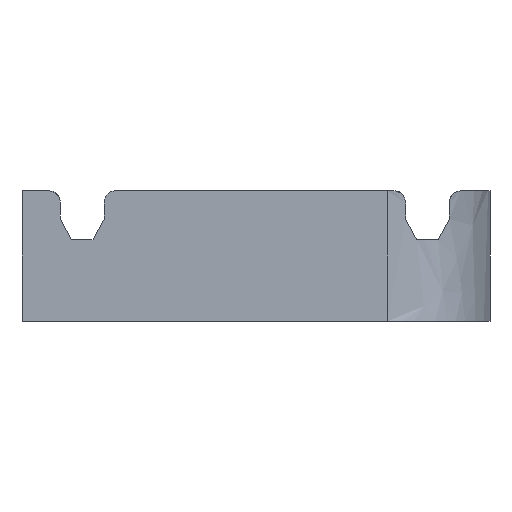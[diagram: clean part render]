
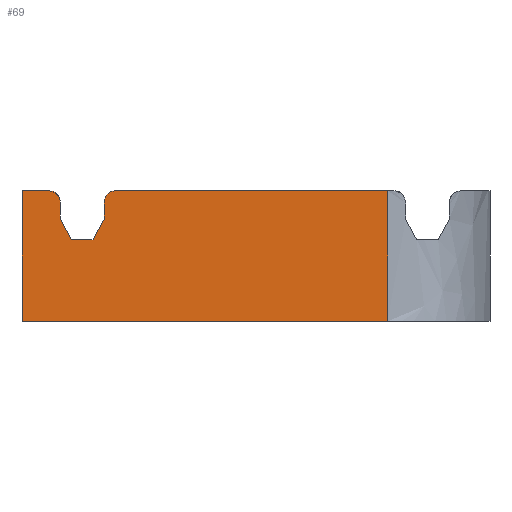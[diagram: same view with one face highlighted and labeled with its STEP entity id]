
A CAD part, front view. The second image highlights one B-rep face of the part: STEP entity #69.
In plain terms, the highlighted planar face has unit normal (0, -1, 0).
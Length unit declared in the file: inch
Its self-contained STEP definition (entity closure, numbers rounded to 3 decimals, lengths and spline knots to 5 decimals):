
#69=ADVANCED_FACE('',(#163),#164,.F.);
#163=FACE_OUTER_BOUND('',#302,.T.);
#164=PLANE('',#303);
#302=EDGE_LOOP('',(#670,#671,#672,#673,#674,#675,#676,#677,#678,#679,#680,#681));
#303=AXIS2_PLACEMENT_3D('',#682,#683,#684);
#670=ORIENTED_EDGE('',*,*,#966,.F.);
#671=ORIENTED_EDGE('',*,*,#967,.F.);
#672=ORIENTED_EDGE('',*,*,#958,.F.);
#673=ORIENTED_EDGE('',*,*,#968,.F.);
#674=ORIENTED_EDGE('',*,*,#969,.F.);
#675=ORIENTED_EDGE('',*,*,#953,.F.);
#676=ORIENTED_EDGE('',*,*,#970,.F.);
#677=ORIENTED_EDGE('',*,*,#971,.F.);
#678=ORIENTED_EDGE('',*,*,#972,.F.);
#679=ORIENTED_EDGE('',*,*,#973,.F.);
#680=ORIENTED_EDGE('',*,*,#974,.F.);
#681=ORIENTED_EDGE('',*,*,#975,.F.);
#682=CARTESIAN_POINT('',(0.67143,0.,-0.18376));
#683=DIRECTION('',(-0.0,1.0,0.0));
#684=DIRECTION('',(1.0,0.0,0.0));
#953=EDGE_CURVE('',#1093,#1095,#1096,.T.);
#958=EDGE_CURVE('',#1102,#1104,#1105,.T.);
#966=EDGE_CURVE('',#1117,#1118,#1119,.T.);
#967=EDGE_CURVE('',#1104,#1117,#1120,.T.);
#968=EDGE_CURVE('',#1121,#1102,#1122,.T.);
#969=EDGE_CURVE('',#1095,#1121,#1123,.T.);
#970=EDGE_CURVE('',#1124,#1093,#1125,.T.);
#971=EDGE_CURVE('',#1126,#1124,#1127,.T.);
#972=EDGE_CURVE('',#1128,#1126,#1129,.T.);
#973=EDGE_CURVE('',#1130,#1128,#1131,.T.);
#974=EDGE_CURVE('',#1132,#1130,#1133,.T.);
#975=EDGE_CURVE('',#1118,#1132,#1134,.T.);
#1093=VERTEX_POINT('',#1315);
#1095=VERTEX_POINT('',#1318);
#1096=LINE('',#1319,#1320);
#1102=VERTEX_POINT('',#1338);
#1104=VERTEX_POINT('',#1341);
#1105=B_SPLINE_CURVE_WITH_KNOTS('',3,(#1342,#1343,#1344,#1345),.UNSPECIFIED.,.F.,.F.,(4,4),(0.0,1.0),.UNSPECIFIED.);
#1117=VERTEX_POINT('',#1376);
#1118=VERTEX_POINT('',#1377);
#1119=LINE('',#1378,#1379);
#1120=LINE('',#1380,#1381);
#1121=VERTEX_POINT('',#1382);
#1122=LINE('',#1383,#1384);
#1123=LINE('',#1385,#1386);
#1124=VERTEX_POINT('',#1387);
#1125=LINE('',#1388,#1389);
#1126=VERTEX_POINT('',#1390);
#1127=LINE('',#1391,#1392);
#1128=VERTEX_POINT('',#1393);
#1129=B_SPLINE_CURVE_WITH_KNOTS('',3,(#1394,#1395,#1396,#1397),.UNSPECIFIED.,.F.,.F.,(4,4),(0.0,1.0),.UNSPECIFIED.);
#1130=VERTEX_POINT('',#1398);
#1131=LINE('',#1399,#1400);
#1132=VERTEX_POINT('',#1401);
#1133=LINE('',#1402,#1403);
#1134=LINE('',#1404,#1405);
#1315=CARTESIAN_POINT('',(0.14178,0.,-0.14101));
#1318=CARTESIAN_POINT('',(0.20384,0.,-0.14101));
#1319=CARTESIAN_POINT('',(0.14178,0.,-0.14101));
#1320=VECTOR('',#1771,1.0);
#1338=CARTESIAN_POINT('',(0.23553,0.,-0.03944));
#1341=CARTESIAN_POINT('',(0.27408,0.,0.0));
#1342=CARTESIAN_POINT('',(0.23553,0.,-0.03944));
#1343=CARTESIAN_POINT('',(0.23553,0.,-0.02395));
#1344=CARTESIAN_POINT('',(0.24251,0.,0.0));
#1345=CARTESIAN_POINT('',(0.27408,0.,0.0));
#1376=CARTESIAN_POINT('',(1.04932,0.,0.0));
#1377=CARTESIAN_POINT('',(1.04932,0.,-0.37522));
#1378=CARTESIAN_POINT('',(1.04932,0.,0.13931));
#1379=VECTOR('',#1777,1.0);
#1380=CARTESIAN_POINT('',(0.27408,0.,0.0));
#1381=VECTOR('',#1778,1.0);
#1382=CARTESIAN_POINT('',(0.23553,0.,-0.08198));
#1383=CARTESIAN_POINT('',(0.23553,0.,-0.08198));
#1384=VECTOR('',#1779,1.0);
#1385=CARTESIAN_POINT('',(0.20384,0.,-0.14101));
#1386=VECTOR('',#1780,1.0);
#1387=CARTESIAN_POINT('',(0.11053,0.,-0.08198));
#1388=CARTESIAN_POINT('',(0.11053,0.,-0.08198));
#1389=VECTOR('',#1781,1.0);
#1390=CARTESIAN_POINT('',(0.11053,0.,-0.03944));
#1391=CARTESIAN_POINT('',(0.11053,0.,-0.03944));
#1392=VECTOR('',#1782,1.0);
#1393=CARTESIAN_POINT('',(0.07231,0.,0.0));
#1394=CARTESIAN_POINT('',(0.07231,0.,0.0));
#1395=CARTESIAN_POINT('',(0.10388,0.,0.0));
#1396=CARTESIAN_POINT('',(0.11053,0.,-0.02395));
#1397=CARTESIAN_POINT('',(0.11053,0.,-0.03944));
#1398=CARTESIAN_POINT('',(0.0,0.,0.0));
#1399=CARTESIAN_POINT('',(0.0,0.,0.0));
#1400=VECTOR('',#1783,1.0);
#1401=CARTESIAN_POINT('',(0.0,0.,-0.37522));
#1402=CARTESIAN_POINT('',(0.0,0.,-0.37522));
#1403=VECTOR('',#1784,1.0);
#1404=CARTESIAN_POINT('',(1.34356,0.,-0.37522));
#1405=VECTOR('',#1785,1.0);
#1771=DIRECTION('',(1.0,0.0,0.0));
#1777=DIRECTION('',(0.0,0.0,-1.0));
#1778=DIRECTION('',(1.0,0.0,0.0));
#1779=DIRECTION('',(0.0,0.0,1.0));
#1780=DIRECTION('',(0.473,0.0,0.881));
#1781=DIRECTION('',(0.468,0.0,-0.884));
#1782=DIRECTION('',(0.0,0.0,-1.0));
#1783=DIRECTION('',(1.0,0.0,0.0));
#1784=DIRECTION('',(0.0,0.0,1.0));
#1785=DIRECTION('',(-1.0,0.0,0.0));
